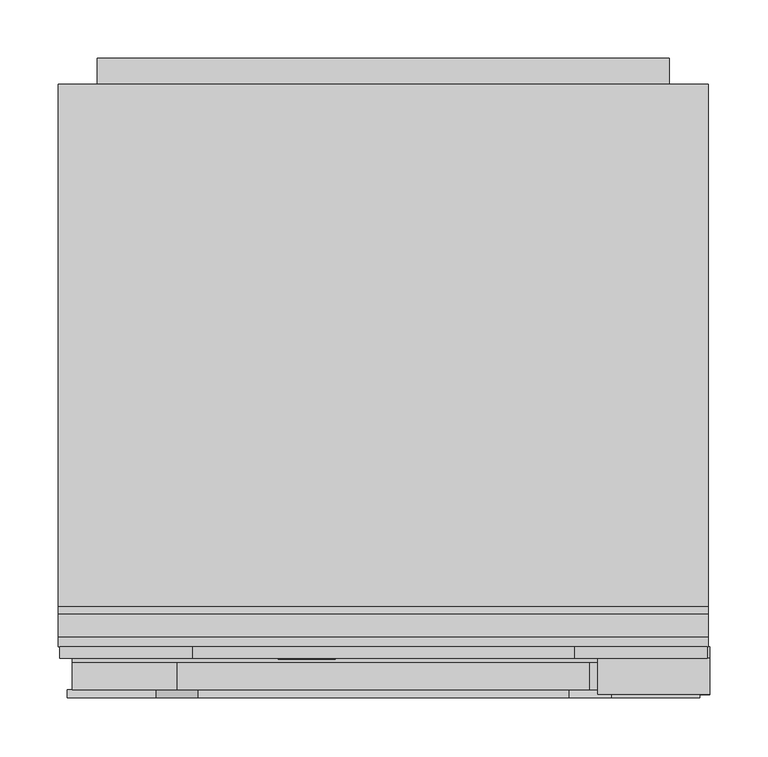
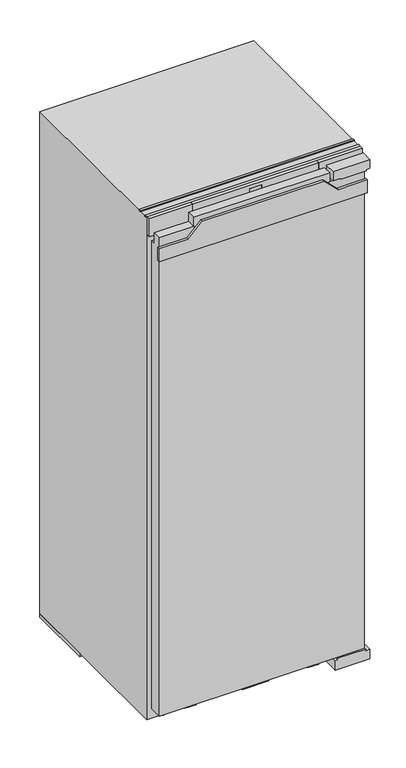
"""IFC4 building model written with IfcOpenShell, lengths in millimetres: proxy geometry, 11641340_EU1_K7444D : 36744400_EU1_11641340_K7444D."""

from ifc_helpers import new_model, si_unit, point, frame, frame_2d, origin, origin_with_axes, place, context, project, spatial, polyline, circle_curve, ellipse_curve, trimmed, segment, composite_curve, outline, extrude, faceted_brep, source, transform, mapped, element, save
from ifc_brep_helpers import plane_surface, cylinder_surface, revolved_surface, extruded_surface, advanced_brep


def specialty_equipment_390eb75c(model_context):
    return source(origin(), model_context, "Body", "SolidModel", [
        advanced_brep(
        [(-46.64, 33.0, 1367.896), (-46.64, 33.0, 1368.704), (-41.288, 33.0, 1368.704), (-50.6, 33.0, 1368.704), (-48.4, 33.0, 1366.0), (-41.424, 33.0, 1367.896), (-43.84, 33.0, 1367.896), (-45.744, 33.0, 1367.0), (-46.64, 33.0, 1369.728), (-46.64, 33.0, 1370.6), (-45.272, 33.0, 1370.6), (-45.272, 33.0, 1369.728), (-46.64, 34.0, 1367.896), (-45.744, 34.0, 1367.0), (-43.84, 34.0, 1367.896), (-41.424, 34.0, 1367.896), (-48.4, 34.0, 1366.0), (-50.6, 34.0, 1368.704), (-41.288, 34.0, 1368.704), (-46.64, 34.0, 1368.704), (-46.64, 34.0, 1369.728), (-45.272, 34.0, 1369.728), (-45.272, 34.0, 1370.6), (-46.64, 34.0, 1370.6)],
        [
            (0, 1),
            (1, 2),
            (2, 3, ellipse_curve(frame((-45.944, 33.0, 1368.704), z_axis=(0.0, -1.0, 0.0), x_axis=(-1.0, 0.0, 0.0)), 4.656, 3.848)),
            (3, 4, circle_curve(frame((-47.5039564, 33.0, 1368.976), z_axis=(0.0, -1.0, 0.0), x_axis=(0.0, 0.0, -1.0)), 3.1079688)),
            (4, 5, circle_curve(frame((-46.0372064, 33.0, 1371.088), z_axis=(0.0, -1.0, 0.0), x_axis=(0.0, 0.0, -1.0)), 5.6098607)),
            (5, 6),
            (6, 7, circle_curve(frame((-45.3529412, 33.0, 1368.64), z_axis=(0.0, 1.0, 0.0), x_axis=(0.0, 0.0, -1.0)), 1.6859795)),
            (7, 0, circle_curve(frame((-45.744, 33.0, 1367.896), z_axis=(0.0, 1.0, 0.0), x_axis=(0.0, 0.0, -1.0)), 0.896)),
            (8, 9),
            (9, 10, circle_curve(frame((-45.956, 33.0, 1370.6), z_axis=(0.0, 1.0, 0.0), x_axis=(0.0, 0.0, -1.0)), 0.684)),
            (10, 11),
            (11, 8),
            (12, 13, circle_curve(frame((-45.744, 34.0, 1367.896), z_axis=(0.0, -1.0, 0.0), x_axis=(0.0, 0.0, -1.0)), 0.896)),
            (13, 14, circle_curve(frame((-45.3529412, 34.0, 1368.64), z_axis=(0.0, -1.0, 0.0), x_axis=(0.0, 0.0, -1.0)), 1.6859795)),
            (14, 15),
            (15, 16, circle_curve(frame((-46.0372064, 34.0, 1371.088), z_axis=(0.0, 1.0, 0.0), x_axis=(0.0, 0.0, -1.0)), 5.6098607)),
            (16, 17, circle_curve(frame((-47.5039564, 34.0, 1368.976), z_axis=(0.0, 1.0, 0.0), x_axis=(0.0, 0.0, -1.0)), 3.1079688)),
            (17, 18, ellipse_curve(frame((-45.944, 34.0, 1368.704), z_axis=(0.0, 1.0, 0.0), x_axis=(-1.0, 0.0, 0.0)), 4.656, 3.848)),
            (18, 19),
            (19, 12),
            (20, 21),
            (21, 22),
            (22, 23, circle_curve(frame((-45.956, 34.0, 1370.6), z_axis=(0.0, -1.0, 0.0), x_axis=(0.0, 0.0, -1.0)), 0.684)),
            (23, 20),
            (0, 12),
            (19, 1),
            (18, 2),
            (5, 15),
            (14, 6),
            (17, 3),
            (13, 7),
            (16, 4),
            (8, 20),
            (23, 9),
            (22, 10),
            (21, 11),
        ],
        [
            plane_surface(frame((-46.64, 33.0, 1368.704), z_axis=(0.0, -1.0, 0.0), x_axis=(0.0, 0.0, 1.0))),
            plane_surface(frame((-46.64, 34.0, 1368.704), z_axis=(0.0, 1.0, 0.0), x_axis=(0.0, 0.0, -1.0))),
            plane_surface(frame((-46.64, 33.0, 1367.896), z_axis=(1.0, 0.0, 0.0), x_axis=(0.0, 1.0, 0.0))),
            plane_surface(frame((-46.64, 33.0, 1368.704), z_axis=(0.0, 0.0, -1.0), x_axis=(0.0, 1.0, 0.0))),
            plane_surface(frame((-41.424, 33.0, 1367.896), z_axis=(0.0, 0.0, 1.0), x_axis=(0.0, 1.0, 0.0))),
            extruded_surface(trimmed(ellipse_curve(frame((-45.944, 35.0, 1368.704), z_axis=(0.0, -1.0, 0.0), x_axis=(-1.0, 0.0, 0.0)), 4.656, 3.848), [point((-41.288, 35.0, 1368.704))], [point((-50.6, 35.0, 1368.704))], True, "CARTESIAN"), (0.0, -1.0, 0.0), 1.0),
            revolved_surface(polyline([(-45.3529412, 34.0, 1366.9540205), (-45.3529412, 33.0, 1366.9540205)]), (-45.3529412, 34.0, 1368.64), (0.0, 1.0, 0.0)),
            revolved_surface(polyline([(-45.744, 34.0, 1367.0), (-45.744, 33.0, 1367.0)]), (-45.744, 34.0, 1367.896), (0.0, 1.0, 0.0)),
            cylinder_surface(frame((-47.5039564, 34.0, 1368.976), z_axis=(0.0, -1.0, 0.0), x_axis=(0.0, 0.0, -1.0)), 3.1079688),
            cylinder_surface(frame((-46.0372064, 34.0, 1371.088), z_axis=(0.0, -1.0, 0.0), x_axis=(0.0, 0.0, -1.0)), 5.6098607),
            plane_surface(frame((-46.64, 33.0, 1369.728), z_axis=(1.0, 0.0, 0.0), x_axis=(0.0, 1.0, 0.0))),
            revolved_surface(polyline([(-45.956, 34.0, 1369.916), (-45.956, 33.0, 1369.916)]), (-45.956, 34.0, 1370.6), (0.0, 1.0, 0.0)),
            plane_surface(frame((-45.272, 33.0, 1370.6), z_axis=(-1.0, 0.0, 0.0), x_axis=(0.0, 1.0, 0.0))),
            plane_surface(frame((-45.272, 33.0, 1369.728), z_axis=(0.0, 0.0, 1.0), x_axis=(0.0, 1.0, 0.0))),
        ],
        [
            (0, [[1, 2, 3, 4, 5, 6, 7, 8], [9, 10, 11, 12]]),
            (1, [[13, 14, 15, 16, 17, 18, 19, 20], [21, 22, 23, 24]]),
            (2, [[-1, 25, -20, 26]]),
            (3, [[-2, -26, -19, 27]]),
            (4, [[-6, 28, -15, 29]]),
            (5, [[-3, -27, -18, 30]]),
            (6, [[-7, -29, -14, 31]]),
            (7, [[-8, -31, -13, -25]]),
            (8, [[-4, -30, -17, 32]]),
            (9, [[-5, -32, -16, -28]]),
            (10, [[-9, 33, -24, 34]]),
            (11, [[-10, -34, -23, 35]]),
            (12, [[-11, -35, -22, 36]]),
            (13, [[-12, -36, -21, -33]]),
        ],
    ),
        advanced_brep(
        [(-63.336, 33.0, 1367.896), (-63.336, 33.0, 1368.704), (-57.984, 33.0, 1368.704), (-67.296, 33.0, 1368.704), (-65.096, 33.0, 1366.0), (-58.12, 33.0, 1367.896), (-60.536, 33.0, 1367.896), (-62.44, 33.0, 1367.0), (-63.336, 33.0, 1369.728), (-63.336, 33.0, 1370.6), (-61.968, 33.0, 1370.6), (-61.968, 33.0, 1369.728), (-63.336, 34.0, 1367.896), (-62.44, 34.0, 1367.0), (-60.536, 34.0, 1367.896), (-58.12, 34.0, 1367.896), (-65.096, 34.0, 1366.0), (-67.296, 34.0, 1368.704), (-57.984, 34.0, 1368.704), (-63.336, 34.0, 1368.704), (-63.336, 34.0, 1369.728), (-61.968, 34.0, 1369.728), (-61.968, 34.0, 1370.6), (-63.336, 34.0, 1370.6)],
        [
            (0, 1),
            (1, 2),
            (2, 3, ellipse_curve(frame((-62.64, 33.0, 1368.704), z_axis=(0.0, -1.0, 0.0), x_axis=(-1.0, 0.0, 0.0)), 4.656, 3.848)),
            (3, 4, circle_curve(frame((-64.1999564, 33.0, 1368.976), z_axis=(0.0, -1.0, 0.0), x_axis=(0.0, 0.0, -1.0)), 3.1079688)),
            (4, 5, circle_curve(frame((-62.7332064, 33.0, 1371.088), z_axis=(0.0, -1.0, 0.0), x_axis=(0.0, 0.0, -1.0)), 5.6098607)),
            (5, 6),
            (6, 7, circle_curve(frame((-62.0489412, 33.0, 1368.64), z_axis=(0.0, 1.0, 0.0), x_axis=(0.0, 0.0, -1.0)), 1.6859795)),
            (7, 0, circle_curve(frame((-62.44, 33.0, 1367.896), z_axis=(0.0, 1.0, 0.0), x_axis=(0.0, 0.0, -1.0)), 0.896)),
            (8, 9),
            (9, 10, circle_curve(frame((-62.652, 33.0, 1370.6), z_axis=(0.0, 1.0, 0.0), x_axis=(0.0, 0.0, -1.0)), 0.684)),
            (10, 11),
            (11, 8),
            (12, 13, circle_curve(frame((-62.44, 34.0, 1367.896), z_axis=(0.0, -1.0, 0.0), x_axis=(0.0, 0.0, -1.0)), 0.896)),
            (13, 14, circle_curve(frame((-62.0489412, 34.0, 1368.64), z_axis=(0.0, -1.0, 0.0), x_axis=(0.0, 0.0, -1.0)), 1.6859795)),
            (14, 15),
            (15, 16, circle_curve(frame((-62.7332064, 34.0, 1371.088), z_axis=(0.0, 1.0, 0.0), x_axis=(0.0, 0.0, -1.0)), 5.6098607)),
            (16, 17, circle_curve(frame((-64.1999564, 34.0, 1368.976), z_axis=(0.0, 1.0, 0.0), x_axis=(0.0, 0.0, -1.0)), 3.1079688)),
            (17, 18, ellipse_curve(frame((-62.64, 34.0, 1368.704), z_axis=(0.0, 1.0, 0.0), x_axis=(-1.0, 0.0, 0.0)), 4.656, 3.848)),
            (18, 19),
            (19, 12),
            (20, 21),
            (21, 22),
            (22, 23, circle_curve(frame((-62.652, 34.0, 1370.6), z_axis=(0.0, -1.0, 0.0), x_axis=(0.0, 0.0, -1.0)), 0.684)),
            (23, 20),
            (0, 12),
            (19, 1),
            (18, 2),
            (5, 15),
            (14, 6),
            (17, 3),
            (13, 7),
            (16, 4),
            (8, 20),
            (23, 9),
            (22, 10),
            (21, 11),
        ],
        [
            plane_surface(frame((-63.336, 33.0, 1368.704), z_axis=(0.0, -1.0, 0.0), x_axis=(0.0, 0.0, 1.0))),
            plane_surface(frame((-63.336, 34.0, 1368.704), z_axis=(0.0, 1.0, 0.0), x_axis=(0.0, 0.0, -1.0))),
            plane_surface(frame((-63.336, 33.0, 1367.896), z_axis=(1.0, 0.0, 0.0), x_axis=(0.0, 1.0, 0.0))),
            plane_surface(frame((-63.336, 33.0, 1368.704), z_axis=(0.0, 0.0, -1.0), x_axis=(0.0, 1.0, 0.0))),
            plane_surface(frame((-58.12, 33.0, 1367.896), z_axis=(0.0, 0.0, 1.0), x_axis=(0.0, 1.0, 0.0))),
            extruded_surface(trimmed(ellipse_curve(frame((-62.64, 35.0, 1368.704), z_axis=(0.0, -1.0, 0.0), x_axis=(-1.0, 0.0, 0.0)), 4.656, 3.848), [point((-57.984, 35.0, 1368.704))], [point((-67.296, 35.0, 1368.704))], True, "CARTESIAN"), (0.0, -1.0, 0.0), 1.0),
            revolved_surface(polyline([(-62.0489412, 34.0, 1366.9540205), (-62.0489412, 33.0, 1366.9540205)]), (-62.0489412, 34.0, 1368.64), (0.0, 1.0, 0.0)),
            revolved_surface(polyline([(-62.44, 34.0, 1367.0), (-62.44, 33.0, 1367.0)]), (-62.44, 34.0, 1367.896), (0.0, 1.0, 0.0)),
            cylinder_surface(frame((-64.1999564, 34.0, 1368.976), z_axis=(0.0, -1.0, 0.0), x_axis=(0.0, 0.0, -1.0)), 3.1079688),
            cylinder_surface(frame((-62.7332064, 34.0, 1371.088), z_axis=(0.0, -1.0, 0.0), x_axis=(0.0, 0.0, -1.0)), 5.6098607),
            plane_surface(frame((-63.336, 33.0, 1369.728), z_axis=(1.0, 0.0, 0.0), x_axis=(0.0, 1.0, 0.0))),
            revolved_surface(polyline([(-62.652, 34.0, 1369.916), (-62.652, 33.0, 1369.916)]), (-62.652, 34.0, 1370.6), (0.0, 1.0, 0.0)),
            plane_surface(frame((-61.968, 33.0, 1370.6), z_axis=(-1.0, 0.0, 0.0), x_axis=(0.0, 1.0, 0.0))),
            plane_surface(frame((-61.968, 33.0, 1369.728), z_axis=(0.0, 0.0, 1.0), x_axis=(0.0, 1.0, 0.0))),
        ],
        [
            (0, [[1, 2, 3, 4, 5, 6, 7, 8], [9, 10, 11, 12]]),
            (1, [[13, 14, 15, 16, 17, 18, 19, 20], [21, 22, 23, 24]]),
            (2, [[-1, 25, -20, 26]]),
            (3, [[-2, -26, -19, 27]]),
            (4, [[-6, 28, -15, 29]]),
            (5, [[-3, -27, -18, 30]]),
            (6, [[-7, -29, -14, 31]]),
            (7, [[-8, -31, -13, -25]]),
            (8, [[-4, -30, -17, 32]]),
            (9, [[-5, -32, -16, -28]]),
            (10, [[-9, 33, -24, 34]]),
            (11, [[-10, -34, -23, 35]]),
            (12, [[-11, -35, -22, 36]]),
            (13, [[-12, -36, -21, -33]]),
        ],
    ),
        extrude(outline(polyline([(1373.528, -72.08), (1372.232, -71.472), (1373.496, -68.76), (1374.792, -69.36), (1373.528, -72.08)])), frame((0.0, 33.0, 0.0), z_axis=(0.0, 1.0, 0.0), x_axis=(0.0, 0.0, 1.0)), (0.0, 0.0, 1.0), 1.0),
        extrude(outline(polyline([(1372.056, -74.056), (1370.624, -74.056), (1370.624, -73.104), (1367.344, -73.104), (1367.344, -74.056), (1366.0, -74.056), (1366.0, -67.744), (1367.344, -67.744), (1367.344, -68.672), (1372.056, -68.672), (1372.056, -74.056)])), frame((0.0, 33.0, 0.0), z_axis=(0.0, 1.0, 0.0), x_axis=(0.0, 0.0, 1.0)), (0.0, 0.0, 1.0), 1.0),
        extrude(outline(polyline([(1372.696, -57.536), (1372.696, -56.576), (1367.344, -56.576), (1367.344, -57.536), (1366.0, -57.536), (1366.0, -51.048), (1367.344, -51.048), (1367.344, -52.032), (1374.0, -52.032), (1374.0, -57.536), (1372.696, -57.536)])), frame((0.0, 33.0, 0.0), z_axis=(0.0, 1.0, 0.0), x_axis=(0.0, 0.0, 1.0)), (0.0, 0.0, 1.0), 1.0),
        extrude(outline(polyline([(1372.696, -90.0), (1372.696, -89.032), (1367.344, -89.032), (1367.344, -90.0), (1366.0, -90.0), (1366.0, -86.48), (1367.344, -86.48), (1367.344, -87.44), (1370.7471247, -87.44), (1366.0, -83.864), (1370.8152223, -80.272), (1367.344, -80.272), (1367.344, -81.256), (1366.0, -81.256), (1366.0, -74.872), (1367.344, -74.872), (1367.344, -75.888), (1372.696, -75.888), (1372.696, -74.872), (1374.0, -74.872), (1374.0, -79.744), (1371.0, -82.08), (1374.0, -84.424), (1374.0, -90.0), (1372.696, -90.0)])), frame((0.0, 33.0, 0.0), z_axis=(0.0, 1.0, 0.0), x_axis=(0.0, 0.0, 1.0)), (0.0, 0.0, 1.0), 1.0),
        faceted_brep([(163.5, 34.0, 1395.0), (-163.5, 34.0, 1395.0), (-163.5, 34.0, 1346.0), (163.5, 34.0, 1346.0), (15.0, 34.0, 1386.0), (15.0, 34.0, 1356.0), (-15.0, 34.0, 1356.0), (-15.0, 34.0, 1386.0), (163.5, 44.0, 1395.0), (163.5, 44.0, 1346.0), (-163.5, 44.0, 1346.0), (-163.5, 44.0, 1395.0), (15.0, 35.0, 1386.0), (-15.0, 35.0, 1386.0), (-15.0, 35.0, 1356.0), (15.0, 35.0, 1356.0)], [[[0, 1, 2, 3], [4, 5, 6, 7]], [[8, 9, 10, 11]], [[0, 3, 9, 8]], [[3, 2, 10, 9]], [[2, 1, 11, 10]], [[1, 0, 8, 11]], [[12, 13, 14, 15]], [[12, 15, 5, 4]], [[15, 14, 6, 5]], [[14, 13, 7, 6]], [[13, 12, 4, 7]]]),
        extrude(outline(polyline([(163.5, 44.0), (277.5, 44.0), (277.5, 34.0), (163.5, 34.0), (163.5, 44.0)])), frame((0.0, 0.0, 1346.0), z_axis=(0.0, 0.0, 1.0), x_axis=(1.0, 0.0, 0.0)), (0.0, 0.0, 1.0), 49.0),
        extrude(outline(polyline([(-277.5, 44.0), (-163.5, 44.0), (-163.5, 34.0), (-277.5, 34.0), (-277.5, 44.0)])), frame((0.0, 0.0, 1346.0), z_axis=(0.0, 0.0, 1.0), x_axis=(1.0, 0.0, 0.0)), (0.0, 0.0, 1.0), 49.0),
        extrude(outline(polyline([(-15.0, 35.0), (15.0, 35.0), (15.0, 34.0), (-15.0, 34.0), (-15.0, 35.0)])), frame((0.0, 0.0, 1356.0), z_axis=(0.0, 0.0, 1.0), x_axis=(1.0, 0.0, 0.0)), (0.0, 0.0, 1.0), 30.0),
        extrude(outline(polyline([(1347.0, -245.0), (27.0, -245.0), (27.0, 245.0), (130.0, 245.0), (130.0, 180.0), (160.0, 180.0), (160.0, 245.0), (1347.0, 245.0), (1347.0, -245.0)])), frame((0.0, 526.0, 0.0), z_axis=(0.0, 1.0, 0.0), x_axis=(0.0, 0.0, 1.0)), (0.0, 0.0, 1.0), 22.0),
        extrude(outline(polyline([(-144.9296686, 52.0), (-174.0, 52.0), (-194.4880722, 346.0), (-165.4177409, 346.0), (-144.9296686, 52.0)])), origin_with_axes(), (0.0, 0.0, 1.0), 10.0),
        extrude(outline(polyline([(144.9296686, 52.0), (165.4177409, 346.0), (194.4880722, 346.0), (174.0, 52.0), (144.9296686, 52.0)])), origin_with_axes(), (0.0, 0.0, 1.0), 10.0),
        extrude(outline(polyline([(539.651012, 148.8988246), (539.651012, 150.150839), (546.8850603, 150.150839), (546.8850603, 140.1043073), (539.5027529, 140.1043073), (539.5027529, 141.3585545), (545.6152499, 141.3585545), (545.6152499, 144.6556887), (539.967462, 144.6556887), (539.967462, 145.9162842), (545.6270824, 145.9162842), (545.6270824, 148.8988246), (539.651012, 148.8988246)])), frame((193.5, 0.0, 0.0), z_axis=(1.0, 0.0, 0.0), x_axis=(0.0, 1.0, 0.0)), (0.0, 0.0, 1.0), 1.0),
        extrude(outline(polyline([(537.624075, 150.150839), (537.624075, 140.1043073), (531.3334819, 140.1043073), (531.3334819, 141.3573374), (536.3334819, 141.3573374), (536.3334819, 150.150839), (537.624075, 150.150839)])), frame((193.5, 0.0, 0.0), z_axis=(1.0, 0.0, 0.0), x_axis=(0.0, 1.0, 0.0)), (0.0, 0.0, 1.0), 1.0),
        advanced_brep(
        [(232.0, 526.0, 145.0), (217.0, 526.0, 145.0), (232.0, 547.5, 145.0), (217.0, 532.5, 145.0), (194.5, 547.5, 145.0), (194.5, 532.5, 145.0)],
        [
            (0, 1, circle_curve(frame((224.5, 526.0, 145.0), z_axis=(0.0, -1.0, 0.0), x_axis=(-1.0, 0.0, 0.0)), 7.5)),
            (1, 0, circle_curve(frame((224.5, 526.0, 145.0), z_axis=(0.0, -1.0, 0.0), x_axis=(-1.0, 0.0, 0.0)), 7.5)),
            (0, 2),
            (2, 3, ellipse_curve(frame((224.5, 540.0, 145.0), z_axis=(0.7071067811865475, -0.7071067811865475, 0.0), x_axis=(-0.7071067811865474, -0.7071067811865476, 0.0)), 10.6066017, 7.5)),
            (3, 1),
            (3, 2, ellipse_curve(frame((224.5, 540.0, 145.0), z_axis=(0.7071067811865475, -0.7071067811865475, 0.0), x_axis=(-0.7071067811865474, -0.7071067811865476, 0.0)), 10.6066017, 7.5)),
            (4, 5, circle_curve(frame((194.5, 540.0, 145.0), z_axis=(-1.0, 0.0, 0.0), x_axis=(0.0, -1.0, 0.0)), 7.5)),
            (5, 4, circle_curve(frame((194.5, 540.0, 145.0), z_axis=(-1.0, 0.0, 0.0), x_axis=(0.0, -1.0, 0.0)), 7.5)),
            (2, 4),
            (5, 3),
        ],
        [
            plane_surface(frame((224.5, 526.0, 145.0), z_axis=(0.0, -1.0, 0.0), x_axis=(0.0, 0.0, 1.0))),
            cylinder_surface(frame((224.5, 526.0, 145.0), z_axis=(0.0, -1.0, 0.0), x_axis=(-1.0, 0.0, 0.0)), 7.5),
            plane_surface(frame((194.5, 540.0, 145.0), z_axis=(-1.0, 0.0, 0.0), x_axis=(0.0, 0.0, 1.0))),
            cylinder_surface(frame((224.5, 540.0, 145.0), z_axis=(1.0, 0.0, 0.0), x_axis=(0.0, -1.0, 0.0)), 7.5),
        ],
        [
            (0, [[1, 2]]),
            (1, [[-1, 3, 4, 5]]),
            (1, [[-2, -5, 6, -3]]),
            (2, [[7, 8]]),
            (3, [[-4, 9, -8, 10]]),
            (3, [[-6, -10, -7, -9]]),
        ],
    ),
        extrude(outline(polyline([(-34.0, 44.0), (34.0, 44.0), (34.0, 35.0), (-34.0, 35.0), (-34.0, 44.0)])), frame((0.0, 0.0, 13.0), z_axis=(0.0, 0.0, 1.0), x_axis=(1.0, 0.0, 0.0)), (0.0, 0.0, 1.0), 19.0),
        extrude(outline(polyline([(-233.5, 44.0), (-233.5, 488.0), (233.5, 488.0), (233.5, 44.0), (-233.5, 44.0)])), frame((0.0, 0.0, 477.0), z_axis=(0.0, 0.0, 1.0), x_axis=(1.0, 0.0, 0.0)), (0.0, 0.0, 1.0), 3.0),
        extrude(outline(polyline([(-233.5, 180.0), (-233.5, 488.0), (233.5, 488.0), (233.5, 180.0), (-233.5, 180.0)])), frame((0.0, 0.0, 1096.0), z_axis=(0.0, 0.0, 1.0), x_axis=(1.0, 0.0, 0.0)), (0.0, 0.0, 1.0), 221.0),
        extrude(outline(polyline([(-233.5, 350.0), (-233.5, 488.0), (233.5, 488.0), (233.5, 350.0), (-233.5, 350.0)])), frame((0.0, 0.0, 62.0), z_axis=(0.0, 0.0, 1.0), x_axis=(1.0, 0.0, 0.0)), (0.0, 0.0, 1.0), 188.0),
        extrude(outline(composite_curve([segment(trimmed(circle_curve(frame_2d((228.0, 64.0)), 11.0), [point((239.0, 64.0))], [point((217.0, 64.0))], False, "CARTESIAN"), True, "CONTINUOUS"), segment(trimmed(circle_curve(frame_2d((228.0, 64.0)), 11.0), [point((217.0, 64.0))], [point((239.0, 64.0))], False, "CARTESIAN"), True, "CONTINUOUS")], self_intersect=False)), origin_with_axes(), (0.0, 0.0, 1.0), 10.0),
        extrude(outline(composite_curve([segment(trimmed(circle_curve(frame_2d((-228.0, 64.0)), 11.0), [point((-217.0, 64.0))], [point((-239.0, 64.0))], False, "CARTESIAN"), True, "CONTINUOUS"), segment(trimmed(circle_curve(frame_2d((-228.0, 64.0)), 11.0), [point((-239.0, 64.0))], [point((-217.0, 64.0))], False, "CARTESIAN"), True, "CONTINUOUS")], self_intersect=False)), origin_with_axes(), (0.0, 0.0, 1.0), 10.0),
        extrude(outline(polyline([(278.5, 526.0), (278.5, 346.0), (-278.5, 346.0), (-278.5, 526.0), (278.5, 526.0)])), origin_with_axes(), (0.0, 0.0, 1.0), 10.0),
        extrude(outline(polyline([(278.5, 52.0), (278.5, 44.0), (-278.5, 44.0), (-278.5, 52.0), (278.5, 52.0)])), frame((0.0, 0.0, 1392.0), z_axis=(0.0, 0.0, 1.0), x_axis=(1.0, 0.0, 0.0)), (0.0, 0.0, 1.0), 3.0),
        extrude(outline(polyline([(278.5, 78.0), (278.5, 72.0), (-278.5, 72.0), (-278.5, 78.0), (278.5, 78.0)])), frame((0.0, 0.0, 1392.0), z_axis=(0.0, 0.0, 1.0), x_axis=(1.0, 0.0, 0.0)), (0.0, 0.0, 1.0), 3.0),
        faceted_brep([(278.5, 526.0, 1392.0), (-278.5, 526.0, 1392.0), (-278.5, 44.0, 1392.0), (278.5, 44.0, 1392.0), (278.5, 526.0, 10.0), (278.5, 44.0, 10.0), (-278.5, 44.0, 10.0), (-278.5, 526.0, 10.0), (233.5, 44.0, 62.0), (-233.5, 44.0, 62.0), (-233.5, 44.0, 570.0), (-233.5, 44.0, 1317.0), (233.5, 44.0, 1317.0), (233.5, 44.0, 570.0), (233.5, 488.0, 1317.0), (-233.5, 488.0, 1317.0), (-233.5, 488.0, 570.0), (-233.5, 488.0, 62.0), (233.5, 488.0, 62.0), (233.5, 488.0, 570.0)], [[[0, 1, 2, 3]], [[4, 5, 6, 7]], [[1, 0, 4, 7]], [[2, 1, 7, 6]], [[3, 2, 6, 5], [8, 9, 10, 11, 12, 13]], [[0, 3, 5, 4]], [[14, 15, 16, 17, 18, 19]], [[18, 8, 13, 12, 14, 19]], [[18, 17, 9, 8]], [[9, 17, 16, 15, 11, 10]], [[15, 14, 12, 11]]]),
        extrude(outline(polyline([(1295.0, 271.0), (1331.0, 271.0), (1331.0, 195.0), (1367.0, 159.0), (1367.0, -159.0), (1331.0, -195.0), (1331.0, -271.0), (1295.0, -271.0), (1295.0, 271.0)])), frame((0.0, 0.0, 0.0), z_axis=(0.0, 1.0, 0.0), x_axis=(0.0, 0.0, 1.0)), (0.0, 0.0, 1.0), 7.0),
        extrude(outline(polyline([(176.5, 7.0), (-176.5, 7.0), (-176.5, 30.0), (176.5, 30.0), (176.5, 7.0)])), frame((0.0, 0.0, 1355.0), z_axis=(0.0, 0.0, 1.0), x_axis=(1.0, 0.0, 0.0)), (0.0, 0.0, 1.0), 25.0),
        extrude(outline(polyline([(7.0, 38.0), (7.0, 1355.0), (30.0, 1355.0), (30.0, 1325.0), (44.0, 1325.0), (44.0, 38.0), (7.0, 38.0)])), frame((-266.5, 0.0, 0.0), z_axis=(1.0, 0.0, 0.0), x_axis=(0.0, 1.0, 0.0)), (0.0, 0.0, 1.0), 533.0),
        extrude(outline(polyline([(34.0, 189.5), (7.0, 189.5), (7.0, 279.5), (34.0, 279.5), (34.0, 268.5), (38.0, 268.5), (38.0, 195.5), (34.0, 195.5), (34.0, 189.5)])), frame((0.0, 3.0, 0.0), z_axis=(0.0, 1.0, 0.0), x_axis=(0.0, 0.0, 1.0)), (0.0, 0.0, 1.0), 41.0),
        extrude(outline(polyline([(1355.0, 203.5), (1355.0, 269.5), (1358.0, 269.5), (1358.0, 279.5), (1382.0, 279.5), (1382.0, 183.5), (1358.0, 183.5), (1358.0, 203.5), (1355.0, 203.5)])), frame((0.0, 3.0, 0.0), z_axis=(0.0, 1.0, 0.0), x_axis=(0.0, 0.0, 1.0)), (0.0, 0.0, 1.0), 31.0),
    ])


if __name__ == "__main__":
    model = new_model("IFC4")
    model_context = context("Model", 3, world=origin())
    ifc_project = project(units=[si_unit("LENGTHUNIT", "METRE", prefix="MILLI")], contexts=[model_context])
    site = spatial("IfcSite", under=ifc_project)
    building = spatial("IfcBuilding", under=site)
    placement = place(None, origin())
    specialty_equipment_shape = specialty_equipment_390eb75c(model_context)
    element("IfcBuildingElementProxy", 1, Name="11641340_EU1_K7444D : 36744400_EU1_11641340_K7444D", ObjectType="11641340_EU1_K7444D : 36744400_EU1_11641340_K7444D", at=placement, inside=building, context=model_context, shape_type="MappedRepresentation", body=[
        mapped(specialty_equipment_shape, transform((0.0, 0.0, 0.0), x_axis=(1.0, 0.0, 0.0), y_axis=(0.0, 1.0, 0.0), z_axis=(0.0, 0.0, 1.0))),
    ])
    save(model, "model.ifc")
